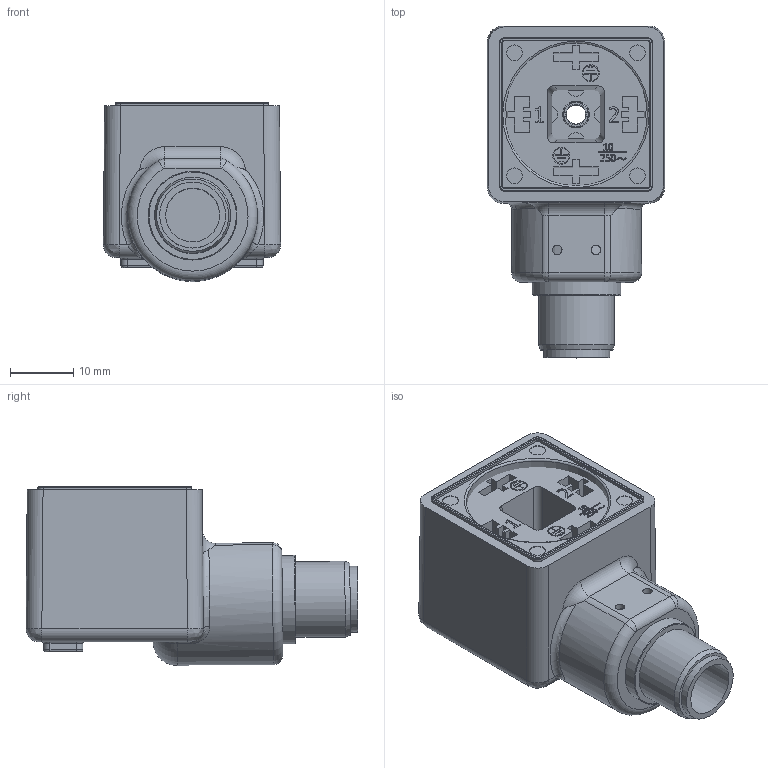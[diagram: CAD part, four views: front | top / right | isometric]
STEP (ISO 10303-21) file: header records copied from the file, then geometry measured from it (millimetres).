
FILE_DESCRIPTION((''),'2;1');
FILE_NAME('C:\Users\enrico\Desktop\Ale\File 3d catalogo\Connettori per attuatori Serie DIN\DIN A adattatore.stp','2020-07-17T14:19:34',('Tecnico2'),(''),'Autodesk Inventor 2012','Autodesk Inventor 2012','');
FILE_SCHEMA(('AUTOMOTIVE_DESIGN { 1 0 10303 214 1 1 1 1 }'));
Length unit declared in the file: millimetre
Products named in the file (5): 45309_Din forma A con adattatore M12; Corpo pvc forma A con adattatore M12; connettore 2P+2T forma A; 0606727NI_ghiera Mschio M12; 270105057 inserto chiave A_3poli
Assembly tree (4 placements, depth 2):
  45309_Din forma A con adattatore M12
    Corpo pvc forma A con adattatore M12
    connettore 2P+2T forma A
    0606727NI_ghiera Mschio M12
    270105057 inserto chiave A_3poli
Bounding box: 27.96 x 52.37 x 28.27 mm (x, y, z)
Volume: 22368 mm3; surface area: 14863.9 mm2
Topology: 4 solids, 4 shells, 801 faces, 1978 edges, 1258 vertices
Faces by surface type: plane 391, cylinder 204, bspline 111, sphere 40, torus 32, cone 23
Full cylindrical faces by diameter (mm): 1.5 x10, 2.1 x4, 2.41 x2, 2.5 x4, 2.6 x1, 2.7 x2, 2.8 x4, 3.026 x1, 3.187 x1, 3.2 x1, 4.026 x1, 4.187 x1, 5 x1, 8.2 x1, 8.5 x1, 9.4 x2, 9.5 x1, 9.65 x1, 10.4 x1, 12 x1, 14 x2, 17 x1, 22.5 x1
Entity records: 26396 total; most frequent: CARTESIAN_POINT 8169, ORIENTED_EDGE 3726, DIRECTION 3489, EDGE_CURVE 1863, VERTEX_POINT 1209, AXIS2_PLACEMENT_3D 1191, VECTOR 1107, LINE 1107
